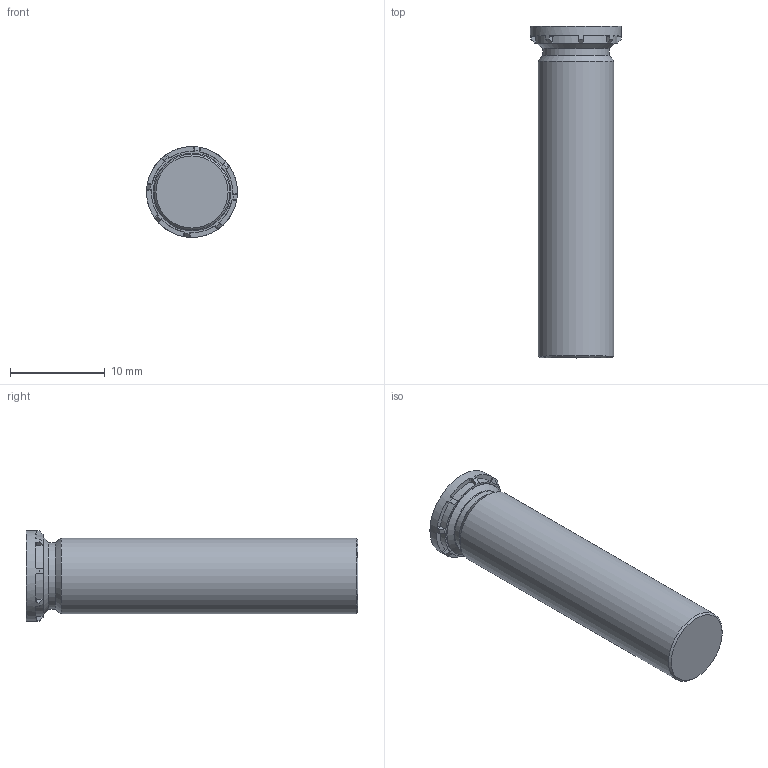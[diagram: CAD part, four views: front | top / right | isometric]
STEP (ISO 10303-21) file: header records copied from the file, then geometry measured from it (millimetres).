
FILE_DESCRIPTION(/* description */ (''),/* implementation_level */ '2;1');
FILE_NAME(/* name */ 'C:\Users\keval.kumar\Desktop\Fastit\Clinch Screw- FH Range\M8\Clinch Screw-FH Range_M8x35.stp',/* time_stamp */ '2024-03-12T12:18:15+06:00',/* author */ ('keval.kumar'),/* organization */ (''),/* preprocessor_version */ 'ST-DEVELOPER v18.1',/* originating_system */ 'Autodesk Inventor 2022',/* authorisation */ '');
FILE_SCHEMA (('AUTOMOTIVE_DESIGN { 1 0 10303 214 3 1 1 }'));
Length unit declared in the file: millimetre
Products named in the file (1): Clinch Screw-FH Range_M8x35
Bounding box: 9.6 x 35 x 9.6 mm (x, y, z)
Volume: 1773.8 mm3; surface area: 1036 mm2
Topology: 1 solids, 1 shells, 68 faces, 193 edges, 128 vertices
Faces by surface type: plane 43, cylinder 12, cone 11, torus 2
Full cylindrical faces by diameter (mm): 7 x1, 8 x1, 8.2 x1, 9.6 x1
Entity records: 2278 total; most frequent: CARTESIAN_POINT 422, DIRECTION 405, ORIENTED_EDGE 386, EDGE_CURVE 193, AXIS2_PLACEMENT_3D 159, VERTEX_POINT 128, LINE 87, VECTOR 87
